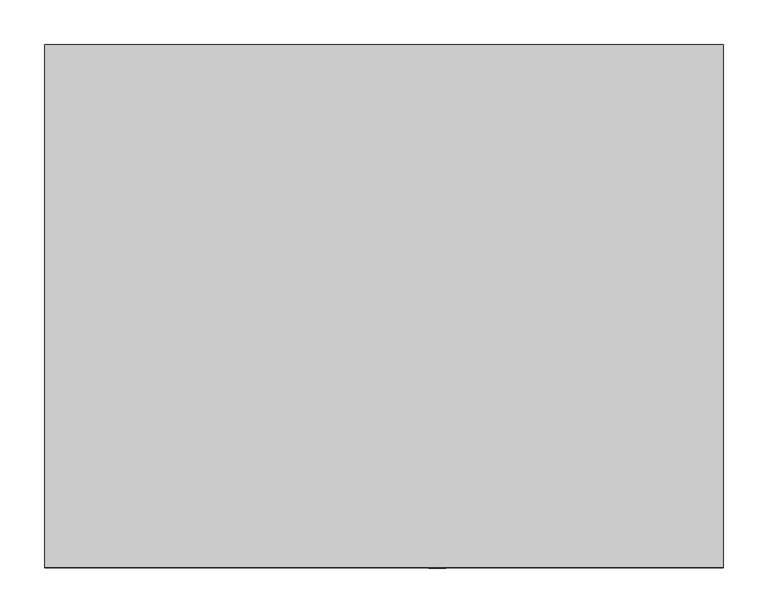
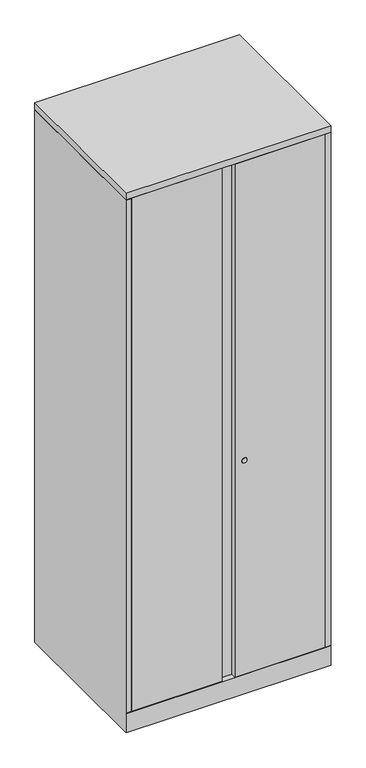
"""IFC4 building model written with IfcOpenShell, lengths in millimetres: furniture geometry, Steelcase - Universal Storage - Cabinet - Storage - 66H-84H - Flush Steel : 83 1/2H x 23 1/8D x 30W."""

from ifc_helpers import new_model, si_unit, point, frame, frame_2d, origin, place, context, project, spatial, polyline, circle_curve, trimmed, segment, composite_curve, outline, extrude, faceted_brep, source, transform, mapped, element, save


def furniture_016c3514(model_context):
    return source(origin(), model_context, "Body", "SolidModel", [
        extrude(outline(polyline([(762.0, 0.0), (762.0, -587.502), (0.0, -587.502), (0.0, 0.0), (762.0, 0.0)])), frame((0.0, 0.0, 2095.5), z_axis=(0.0, 0.0, 1.0), x_axis=(1.0, 0.0, 0.0)), (0.0, 0.0, 1.0), 25.4000484),
        extrude(outline(composite_curve([segment(trimmed(circle_curve(frame_2d((917.575, 440.8109835)), 9.7167829), [point((917.575, 450.5277664))], [point((917.575, 431.0942006))], False, "CARTESIAN"), True, "CONTINUOUS"), segment(trimmed(circle_curve(frame_2d((917.575, 440.8109835)), 9.7167829), [point((917.575, 431.0942006))], [point((917.575, 450.5277664))], False, "CARTESIAN"), True, "CONTINUOUS")], self_intersect=False)), frame((0.0, -588.1715275, 0.0), z_axis=(0.0, 1.0, 0.0), x_axis=(0.0, 0.0, 1.0)), (0.0, 0.0, 1.0), 0.6695275),
        extrude(outline(polyline([(20.8280006, -561.975866), (741.172, -561.975866), (741.172, -587.502), (405.13, -587.502), (405.13, -568.3258781), (356.87, -568.3258781), (356.87, -587.502), (20.8280006, -587.502), (20.8280006, -561.975866)])), frame((0.0, 0.0, 77.724), z_axis=(0.0, 0.0, 1.0), x_axis=(1.0, 0.0, 0.0)), (0.0, 0.0, 1.0), 2016.252),
        faceted_brep([(762.0, 0.0, 0.0), (762.0, -587.502, 0.0), (0.0, -587.502, 0.0), (0.0, 0.0, 0.0), (0.0, 0.0, 2093.976), (762.0, 0.0, 2093.976), (0.0, -587.502, 76.2), (0.0, -587.502, 77.724), (0.0, -587.502, 2093.976), (762.0, -587.502, 76.2), (762.0, -587.502, 2093.976), (762.0, -587.502, 77.724), (736.6000242, -25.4000008, 2093.976), (736.6000242, -560.4518674, 2093.976), (741.172, -560.4518674, 2093.976), (741.172, -561.9758781, 2093.976), (742.696, -561.9758781, 2093.976), (742.696, -587.502, 2093.976), (19.304, -587.502, 2093.976), (19.304, -561.975866, 2093.976), (20.8280006, -561.975866, 2093.976), (20.8280006, -560.4518674, 2093.976), (25.4000008, -560.4518674, 2093.976), (25.4000008, -25.4000008, 2093.976), (19.304, -587.502, 77.724), (19.304, -568.198, 77.724), (742.696, -587.502, 77.724), (742.696, -568.0718418, 77.724), (736.6000242, -25.4000008, 77.724), (736.6000242, -560.4518674, 77.724), (741.172, -560.4518674, 77.724), (741.172, -561.9758781, 77.724), (742.696, -561.9758781, 77.724), (19.304, -561.975866, 77.724), (20.8280006, -561.975866, 77.724), (20.8280006, -560.4518674, 77.724), (25.4000008, -560.4518674, 77.724), (25.4000008, -25.4000008, 77.724), (25.526134, -561.975866, 77.724), (736.6000242, -561.975866, 77.724)], [[[0, 1, 2, 3]], [[0, 3, 4, 5]], [[4, 3, 2, 6, 7, 8]], [[2, 1, 9, 6]], [[1, 0, 5, 10, 11, 9]], [[12, 13, 14, 15, 16, 17, 10, 5, 4, 8, 18, 19, 20, 21, 22, 23]], [[24, 7, 25]], [[11, 26, 27]], [[13, 12, 28, 29]], [[14, 13, 29, 30]], [[15, 14, 30, 31]], [[16, 15, 31, 32]], [[17, 16, 32, 27, 26]], [[10, 17, 26, 11]], [[18, 8, 7, 24]], [[19, 18, 24, 25, 33]], [[20, 19, 33, 34]], [[21, 20, 34, 35]], [[22, 21, 35, 36]], [[23, 22, 36, 37]], [[12, 23, 37, 28]], [[38, 39, 27, 32, 31, 30, 29, 28, 37, 36, 35, 34, 33, 25]], [[7, 6, 38, 25]], [[39, 38, 6, 9]], [[39, 9, 11, 27]]]),
    ])


if __name__ == "__main__":
    model = new_model("IFC4")
    model_context = context("Model", 3, world=origin())
    ifc_project = project(units=[si_unit("LENGTHUNIT", "METRE", prefix="MILLI")], contexts=[model_context])
    site = spatial("IfcSite", under=ifc_project)
    building = spatial("IfcBuilding", under=site)
    placement = place(None, origin())
    furniture_shape = furniture_016c3514(model_context)
    element("IfcFurniture", 1, ObjectType="Steelcase - Universal Storage - Cabinet - Storage - 66H-84H - Flush Steel : 83 1/2H x 23 1/8D x 30W", at=placement, inside=building, context=model_context, shape_type="MappedRepresentation", body=[
        mapped(furniture_shape, transform((0.0, 0.0, 0.0), x_axis=(1.0, 0.0, 0.0), y_axis=(0.0, 1.0, 0.0), z_axis=(0.0, 0.0, 1.0))),
    ])
    save(model, "model.ifc")
